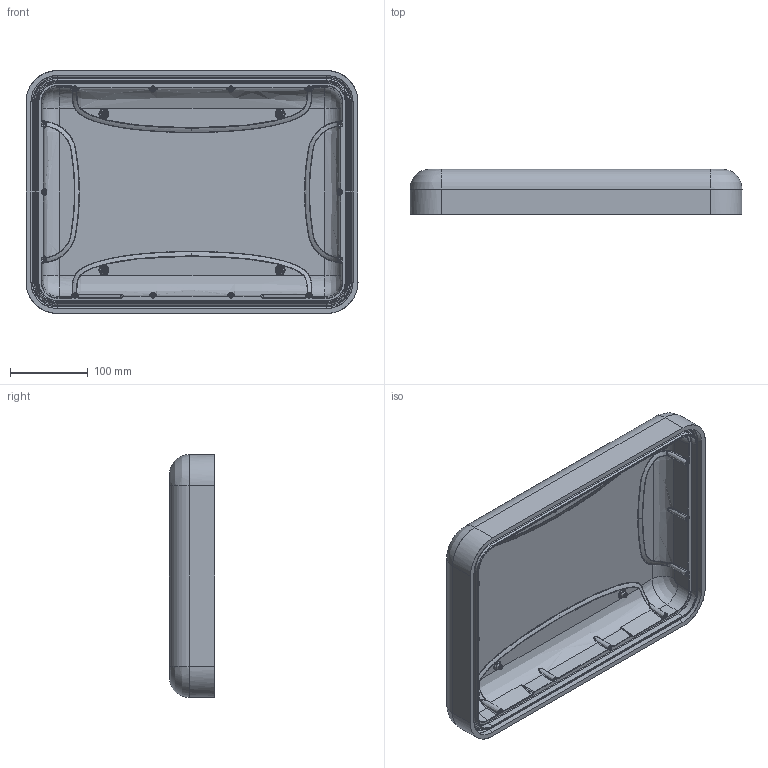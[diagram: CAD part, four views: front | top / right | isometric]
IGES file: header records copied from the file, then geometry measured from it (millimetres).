
Start section: SolidWorks IGES file using analytic representation for surfaces
Global section: file name: Z:\Share\Sylvain Charria\Inner Surface Files-20200318T143519Z-001\Inner Surface Files\920\920_R1_Top_INNER_SURFACE_IGES.IGS; native system: SolidWorks 2018; preprocessor: SolidWorks 2018; author: scharria; date: 200318.145806; units: inch
Bounding box: 425.91 x 57.88 x 311.61 mm (x, y, z)
Surface area: 405780.4 mm2 (no closed solid volume)
Topology: 0 solids, 0 shells, 903 faces, 10093 edges, 10088 vertices
Faces by surface type: bspline 743, revolution 160
